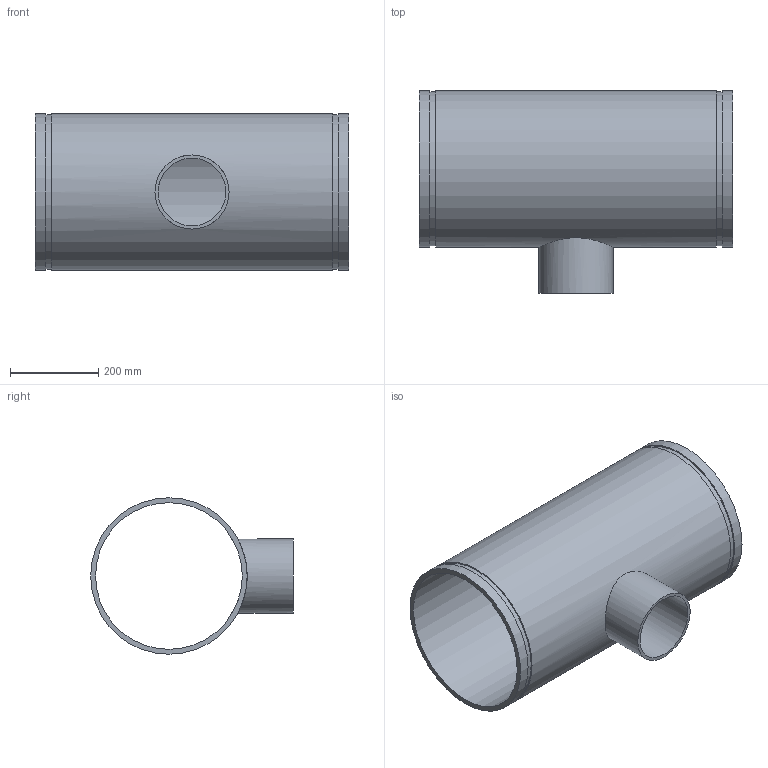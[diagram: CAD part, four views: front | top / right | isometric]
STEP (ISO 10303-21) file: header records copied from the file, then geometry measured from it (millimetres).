
FILE_DESCRIPTION(/* description */ ('VIC REDUCING TEE No 29T FFT (OGSxMPT)','CAx-IF Rec.Pracs.---Representation and Presentation of Product Manufacturing Information (PMI)---4.0---2014-10-13'),/* implementation_level */ '2;1');
FILE_NAME(/* name */ 'C:\Users\kkamble\AppData\Roaming\Autodesk\ApplicationPlugins\Back Up\Victaulic_IPS_Tee Reducing_No 29T FFT (OGSxMPT)\Victaulic_IPS_Tee Reducing_No 29T FFT (OGSxMPT)_14.0x06.0 (350x150).stp',/* time_stamp */ '2020-09-16T22:39:35+05:00',/* author */ ('CORINNE GRAY'),/* organization */ ('Victaulic'),/* preprocessor_version */ 'ST-DEVELOPER v17.2',/* originating_system */ 'Autodesk Inventor 2019',/* authorisation */ '');
FILE_SCHEMA (('AP242_MANAGED_MODEL_BASED_3D_ENGINEERING_MIM_LF { 1 0 10303 442 1 1 4 }'));
Length unit declared in the file: inch
Products named in the file (1): 29 FFT-14.0x06.0
Bounding box: 711.2 x 460.5 x 355.6 mm (x, y, z)
Volume: 8665100.2 mm3; surface area: 1658447.7 mm2
Topology: 1 solids, 1 shells, 15 faces, 32 edges, 24 vertices
Faces by surface type: cylinder 8, plane 7
Full cylindrical faces by diameter (mm): 154.051 x1, 168.275 x1, 333.4 x1, 350.037 x2, 355.6 x3
Entity records: 709 total; most frequent: CARTESIAN_POINT 221, DIRECTION 106, ORIENTED_EDGE 64, AXIS2_PLACEMENT_3D 49, EDGE_CURVE 32, EDGE_LOOP 24, VERTEX_POINT 24, CIRCLE 20
